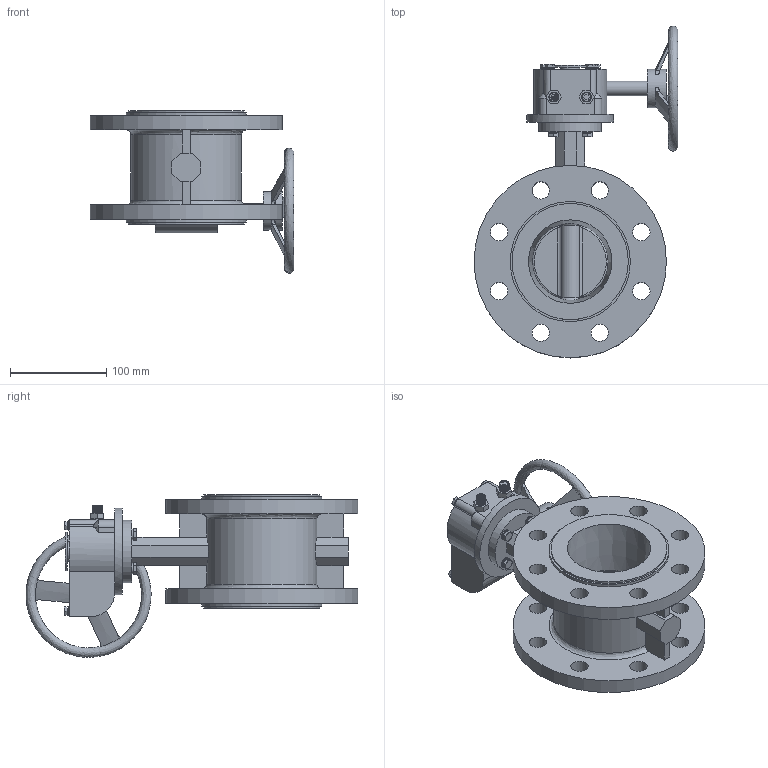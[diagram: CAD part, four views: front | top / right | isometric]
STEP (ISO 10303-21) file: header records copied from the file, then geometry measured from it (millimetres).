
FILE_DESCRIPTION (( 'STEP AP214' ), '1' );
FILE_NAME ('恦謫 邧楊擘評概 Fig.3226-204B-80-16.STEP', '2026-03-19T08:33:12', ( '' ), ( '' ), 'SwSTEP 2.0', 'SolidWorks 2024', '' );
FILE_SCHEMA (( 'AUTOMOTIVE_DESIGN' ));
Length unit declared in the file: millimetre
Products named in the file (1): 涡轮 双法兰蝶阀 Fig.3226-204B-80-16
Bounding box: 212 x 345 x 168.98 mm (x, y, z)
Surface area: 272978.8 mm2 (no closed solid volume)
Topology: 0 solids, 1 shells, 565 faces, 1466 edges, 961 vertices
Faces by surface type: plane 300, bspline 133, cylinder 90, cone 42
Full cylindrical faces by diameter (mm): 6 x8, 6.68 x4, 7 x4, 10 x6, 10.68 x4, 15 x1, 18 x16, 20 x1, 40 x2, 50 x1, 65 x1, 90 x1, 120.8 x2, 124.8 x2, 200 x2
Entity records: 43344 total; most frequent: CARTESIAN_POINT 26868, ORIENTED_EDGE 2750, DIRECTION 1997, EDGE_CURVE 1386, VERTEX_POINT 939, EDGE_LOOP 731, VECTOR 695, LINE 695
